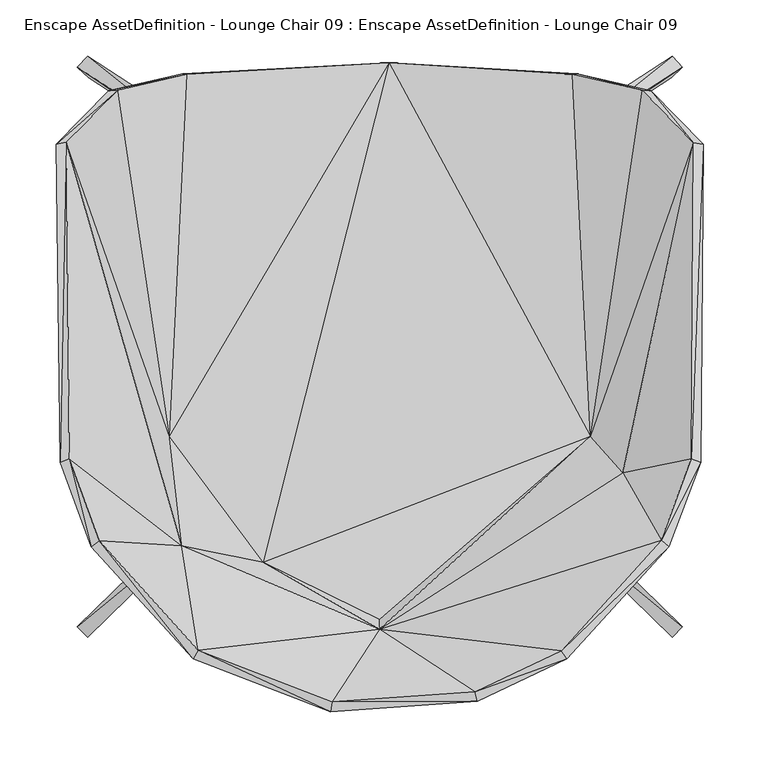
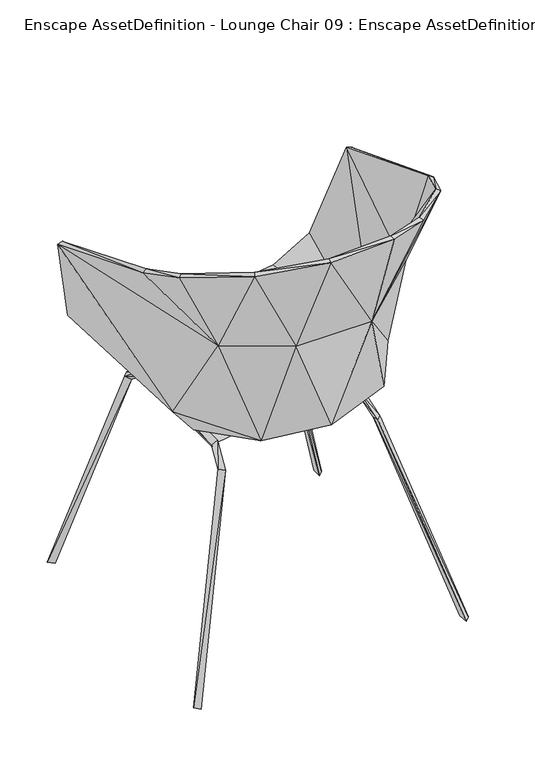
"""IFC4 building model written with IfcOpenShell, lengths in millimetres: geographic element geometry, Enscape AssetDefinition - Lounge Chair 09 : Enscape AssetDefinition - Lounge Chair 09."""

import ifcopenshell
import ifcopenshell.guid

model = None  # the IFC model being written
_history = None  # IfcOwnerHistory: only IFC2X3 demands one
_inside = {}  # id of a spatial element -> (the spatial element, [elements in it])
_under = {}  # id of a project, library or spatial element -> (it, [spatial elements below it])
_declared = {}  # id of a project -> (the project, [libraries it declares])
_typed = {}  # id of a type object -> (the type object, [elements of that type])
_made_of = {}  # id of a material, layer set ... -> (it, [elements and type objects made of it])


def new_model(schema):
    """Start an empty IFC model of exactly this schema.

    Asked for "IFC4X3", IfcOpenShell would pick the latest addendum, in which some entities
    have other attributes; the version numbers below select the first issue.
    IFC2X3 requires an IfcOwnerHistory on every rooted entity: one is made here for all.
    """
    global model, _history
    if schema == "IFC4X3":
        model = ifcopenshell.file(schema_version=(4, 3, 0, 0))
    else:
        model = ifcopenshell.file(schema=schema)
    _inside.clear()
    _under.clear()
    _declared.clear()
    _typed.clear()
    _made_of.clear()
    _history = None
    if model.schema == "IFC2X3":
        org = make("IfcOrganization", Name="unknown")
        user = make(
            "IfcPersonAndOrganization",
            ThePerson=make("IfcPerson", FamilyName="unknown"),
            TheOrganization=org,
        )
        app = make(
            "IfcApplication",
            ApplicationDeveloper=org,
            Version="unknown",
            ApplicationFullName="unknown",
            ApplicationIdentifier="unknown",
        )
        _history = make(
            "IfcOwnerHistory",
            OwningUser=user,
            OwningApplication=app,
            ChangeAction="ADDED",
            CreationDate=0,
        )
    return model


def make(cls, **values):
    """One entity of the class cls with the attributes given. An attribute that is None is left unset."""
    return model.create_entity(
        cls, **{name: value for name, value in values.items() if value is not None}
    )


def rooted(cls, **values):
    """An entity with a GlobalId (a new one), such as an element, a storey or a relation."""
    return make(cls, GlobalId=ifcopenshell.guid.new(), OwnerHistory=_history, **values)


def si_unit(unit_type, name, prefix=None):
    """IfcSIUnit, for example si_unit("LENGTHUNIT", "METRE", prefix="MILLI")."""
    return make("IfcSIUnit", UnitType=unit_type, Prefix=prefix, Name=name)


def assignment(units):
    """IfcUnitAssignment: the units of a project."""
    return None if units is None else make("IfcUnitAssignment", Units=units)


def point(xyz):
    """IfcCartesianPoint."""
    return None if xyz is None else make("IfcCartesianPoint", Coordinates=xyz)


def direction(xyz):
    """IfcDirection."""
    return None if xyz is None else make("IfcDirection", DirectionRatios=xyz)


def frame(location, z_axis=None, x_axis=None):
    """IfcAxis2Placement3D, a coordinate frame: its origin and axes. An axis left out is left unset."""
    return make(
        "IfcAxis2Placement3D",
        Location=point(location),
        Axis=direction(z_axis),
        RefDirection=direction(x_axis),
    )


def origin():
    """The frame at (0, 0, 0) with its axes left unset."""
    return frame((0.0, 0.0, 0.0))


def place(relative_to, where):
    """IfcLocalPlacement: puts the frame where relative to a parent placement (None: the world)."""
    return make(
        "IfcLocalPlacement", PlacementRelTo=relative_to, RelativePlacement=where
    )


def context(
    kind, dimensions, precision=None, world=None, true_north=None, identifier=None
):
    """IfcGeometricRepresentationContext, for example the 3D "Model" context."""
    return make(
        "IfcGeometricRepresentationContext",
        ContextIdentifier=identifier,
        ContextType=kind,
        CoordinateSpaceDimension=dimensions,
        Precision=precision,
        WorldCoordinateSystem=world,
        TrueNorth=true_north,
    )


def project(units=None, contexts=None):
    """IfcProject with its units and contexts."""
    return rooted(
        "IfcProject",
        Name="project",
        RepresentationContexts=contexts,
        UnitsInContext=assignment(units),
    )


def spatial(cls, under=None, at=None, **own):
    """A site, building, storey or space (cls), placed at a placement, below another one or the project."""
    s = rooted(cls, ObjectPlacement=at, **own)
    if under is not None:
        _under.setdefault(under.id(), (under, []))[1].append(s)
    return s


def faces_of(points, faces, orient=None, outer=None):
    """IfcFace entities. A face is a list of loops; a loop is a list of indices into points, from 0.

    orient and outer hold one flag for each loop. By default every Orientation is true, the
    first loop of a face is its IfcFaceOuterBound and the others are IfcFaceBound.
    """
    made = []
    for i, loops in enumerate(faces):
        bounds = []
        for j, loop in enumerate(loops):
            is_outer = j == 0 if outer is None else outer[i][j]
            bounds.append(
                make(
                    "IfcFaceOuterBound" if is_outer else "IfcFaceBound",
                    Bound=make("IfcPolyLoop", Polygon=[points[k] for k in loop]),
                    Orientation=True if orient is None else orient[i][j],
                )
            )
        made.append(make("IfcFace", Bounds=bounds))
    return made


def faceted_brep(points, faces, orient=None, outer=None, voids=None):
    """IfcFacetedBrep: a solid bounded by flat faces; with voids (closed shells), ...WithVoids."""
    shared = [point(p) for p in points]
    hull = make("IfcClosedShell", CfsFaces=faces_of(shared, faces, orient, outer))
    if voids is None:
        return make("IfcFacetedBrep", Outer=hull)
    return make(
        "IfcFacetedBrepWithVoids",
        Outer=hull,
        Voids=[
            make(cls, CfsFaces=faces_of(shared, fs, o, b)) for cls, fs, o, b in voids
        ],
    )


def shape(context_of_items, identifier, shape_type, items):
    """IfcShapeRepresentation: the items that make up one representation, for example the "Body"."""
    return make(
        "IfcShapeRepresentation",
        ContextOfItems=context_of_items,
        RepresentationIdentifier=identifier,
        RepresentationType=shape_type,
        Items=items,
    )


def source(mapping_origin, context_of_items, identifier, shape_type, items):
    """IfcRepresentationMap: a shape defined once, which mapped items show again and again."""
    return make(
        "IfcRepresentationMap",
        MappingOrigin=mapping_origin,
        MappedRepresentation=shape(context_of_items, identifier, shape_type, items),
    )


def transform(
    local_origin,
    x_axis=None,
    y_axis=None,
    z_axis=None,
    scale=None,
    scale2=None,
    scale3=None,
    uniform=True,
):
    """IfcCartesianTransformationOperator3D, or its non-uniform kind. x_axis, y_axis, z_axis: its Axis1, 2, 3."""
    if uniform:
        return make(
            "IfcCartesianTransformationOperator3D",
            Axis1=direction(x_axis),
            Axis2=direction(y_axis),
            LocalOrigin=point(local_origin),
            Scale=scale,
            Axis3=direction(z_axis),
        )
    return make(
        "IfcCartesianTransformationOperator3DnonUniform",
        Axis1=direction(x_axis),
        Axis2=direction(y_axis),
        LocalOrigin=point(local_origin),
        Scale=scale,
        Axis3=direction(z_axis),
        Scale2=scale2,
        Scale3=scale3,
    )


def mapped(mapping_source, mapping_target):
    """IfcMappedItem: shows the shape of a source again, moved by a transform."""
    return make(
        "IfcMappedItem", MappingSource=mapping_source, MappingTarget=mapping_target
    )


def made_of(thing, what):
    """Note that an element or type object is made of a material, layer set ...; save() writes the relation."""
    if what is not None:
        _made_of.setdefault(what.id(), (what, []))[1].append(thing)
    return thing


def element(
    cls,
    number,
    at=None,
    inside=None,
    cuts=None,
    type_object=None,
    material=None,
    context=None,
    identifier="Body",
    shape_type=None,
    held_by="IfcProductDefinitionShape",
    body=None,
    shapes=None,
    **own,
):
    """One element of the class cls, such as IfcWall. Its Tag is "e" and its number.

    at: its placement. inside: the storey or other place that contains it. cuts: it is an
    opening in that element (IfcRelVoidsElement). A single representation is given by context,
    identifier, shape_type and body (its items); several are given by shapes. held_by: the class
    of the entity that holds the representations. save() writes the other relations.
    """
    e = rooted(cls, Tag="e%d" % number, ObjectPlacement=at, **own)
    if body is not None:
        shapes = [shape(context, identifier, shape_type, body)]
    if shapes is not None:
        e.Representation = make(held_by, Representations=shapes)
    if inside is not None:
        _inside.setdefault(inside.id(), (inside, []))[1].append(e)
    if cuts is not None:
        rooted(
            "IfcRelVoidsElement", RelatingBuildingElement=cuts, RelatedOpeningElement=e
        )
    if type_object is not None:
        _typed.setdefault(type_object.id(), (type_object, []))[1].append(e)
    return made_of(e, material)


def aggregate(whole, parts):
    """IfcRelAggregates: a whole, such as a stair, and the parts it consists of."""
    return rooted("IfcRelAggregates", RelatingObject=whole, RelatedObjects=parts)


def save(model, path):
    """Write the relations noted so far, then the file.

    IfcRelAggregates (storeys below a building ...), IfcRelContainedInSpatialStructure (elements
    in a storey), IfcRelDefinesByType, IfcRelAssociatesMaterial and IfcRelDeclares: one each for
    every whole, place, type object, material and project.
    """
    for whole, parts in _under.values():
        aggregate(whole, parts)
    for where, things in _inside.values():
        rooted(
            "IfcRelContainedInSpatialStructure",
            RelatedElements=things,
            RelatingStructure=where,
        )
    for kind, things in _typed.values():
        rooted("IfcRelDefinesByType", RelatedObjects=things, RelatingType=kind)
    for what, things in _made_of.values():
        rooted("IfcRelAssociatesMaterial", RelatedObjects=things, RelatingMaterial=what)
    for by, libraries in _declared.values():
        rooted("IfcRelDeclares", RelatingContext=by, RelatedDefinitions=libraries)
    model.write(path)


def enscape_assetdefinition_lounge_chair_09_enscape_dc3376f6(model_context):
    return source(origin(), model_context, "Body", "Brep", [
        faceted_brep([(258.9002252, -259.8875165, -0.2324126), (149.9228776, -153.7009627, 384.1864467), (158.522144, -162.0799154, 389.5681798), (268.9516246, -269.6813643, -0.2324126), (149.1782218, -171.3271439, 390.1715279), (151.2373984, -127.3416579, 415.2702093), (140.0908828, -127.9905587, 422.2351611), (259.778738, -279.0959477, -0.2324126), (144.2724615, -126.7550588, 404.1237235), (151.2373984, 124.1418049, 415.2702093), (140.0908828, 124.8334721, 422.2360849), (144.2724615, 123.5142946, 404.1237235), (158.4217399, 155.5667818, 389.9205029), (149.2814124, 165.0371253, 389.8043036), (149.6374756, 146.9870359, 385.1895034), (268.9432502, 227.3692638, -0.2324126), (259.7843111, 236.8275225, -0.2324126), (258.8936985, 217.9667801, -0.2324126)], [[[0, 1, 2]], [[2, 3, 0]], [[3, 2, 4]], [[5, 2, 1]], [[6, 4, 2]], [[2, 5, 6]], [[1, 0, 7]], [[7, 0, 3]], [[4, 7, 3]], [[7, 4, 1]], [[8, 1, 4]], [[4, 6, 8]], [[1, 8, 5]], [[9, 5, 8]], [[10, 6, 5]], [[5, 9, 10]], [[11, 8, 6]], [[6, 10, 11]], [[8, 11, 9]], [[12, 9, 11]], [[13, 10, 9]], [[9, 12, 13]], [[14, 11, 10]], [[10, 13, 14]], [[11, 14, 12]], [[15, 12, 14]], [[16, 13, 12]], [[12, 15, 16]], [[17, 14, 13]], [[13, 16, 17]], [[14, 17, 15]], [[17, 16, 15]]]),
        faceted_brep([(-258.8983476, -259.8875165, -0.2324126), (-268.9497471, -269.6813643, -0.2324126), (-158.5193574, -162.0799154, 389.5681798), (-149.9210149, -153.7009627, 384.1864467), (-149.1763592, -171.3271439, 390.1715279), (-151.2355357, -127.3416579, 415.2702093), (-140.089035, -127.9905587, 422.2351611), (-259.7768903, -279.0959477, -0.2324126), (-144.2705989, -126.7550588, 404.1237235), (-140.089035, 124.8334721, 422.2360849), (-144.2705989, 123.5142946, 404.1237235), (-151.2355357, 124.1418049, 415.2702093), (-158.4189534, 155.5667818, 389.9205029), (-149.635613, 146.9870359, 385.1895034), (-149.2795497, 165.0371253, 389.8043036), (-268.9413726, 227.3692638, -0.2324126), (-259.7824633, 236.8275225, -0.2324126), (-258.8918507, 217.9667801, -0.2324126)], [[[0, 1, 2]], [[2, 3, 0]], [[4, 2, 1]], [[3, 2, 5]], [[6, 5, 2]], [[2, 4, 6]], [[1, 7, 4]], [[0, 7, 1]], [[7, 0, 3]], [[3, 4, 7]], [[5, 8, 3]], [[4, 3, 8]], [[8, 6, 4]], [[5, 6, 9]], [[10, 9, 6]], [[6, 8, 10]], [[8, 5, 11]], [[9, 11, 5]], [[11, 10, 8]], [[10, 11, 12]], [[12, 13, 10]], [[9, 10, 13]], [[11, 9, 14]], [[13, 14, 9]], [[14, 12, 11]], [[13, 12, 15]], [[16, 15, 12]], [[12, 14, 16]], [[15, 17, 13]], [[14, 13, 17]], [[17, 16, 14]], [[16, 17, 15]]]),
        faceted_brep([(-175.0662029, 221.477136, 457.4809968), (8.9692678, 231.0636938, 424.8103201), (-175.9558618, -108.1787795, 444.9037611), (-210.8698189, -97.8234038, 487.8387153), (-240.9765571, 206.4019293, 513.8810277), (-107.3913649, -217.8859115, 464.332521), (-171.5800166, 221.1396694, 466.0923481), (8.339894, 231.0014069, 434.0854287), (-287.5938714, 158.7387472, 705.7441473), (-233.1712097, 206.5999508, 518.9262629), (-183.1597388, -203.5255879, 679.3448925), (-284.085393, -123.6081868, 816.6784048), (-278.7352502, 160.294041, 708.0971003), (-187.2111559, -100.4626825, 472.0402658), (-103.8410291, -212.3089284, 470.8679914), (-176.1064827, -197.9764998, 681.7740798), (-276.2465775, -120.7262725, 820.7623959), (-256.688565, -198.7564862, 842.7597284), (-249.6604323, -193.4658438, 845.7671404), (-161.5983546, -290.7946706, 876.6975999), (-0.2695986, -271.9608843, 688.3280873), (-166.1592275, -298.4642684, 874.0890026), (-74.3144006, -280.4727554, 686.1666441), (-43.7028706, -345.1550603, 888.1955147), (-42.6263325, -336.2740874, 890.7260299), (74.3162557, -280.4727554, 686.1666441), (86.5811408, -336.119771, 885.4873776), (0.0009297, -271.1539268, 492.7231371), (152.5417119, -184.7922057, 466.2169218), (175.9568155, -108.1787795, 444.9037611), (210.8707577, -97.8234038, 487.8387153), (240.9784198, 206.4019293, 513.8810277), (175.0680655, 221.477136, 457.4809968), (170.9273905, 221.1489826, 465.7985568), (233.1730723, 206.5999508, 518.9262629), (287.5957489, 158.7387472, 705.7441473), (278.6785364, 159.9575132, 708.0739141), (223.6014009, -137.6877427, 673.7567186), (285.0987017, -123.6081868, 816.6682124), (276.9001126, -120.6556112, 819.9061751), (215.8666998, -133.2105398, 676.3188839), (187.2167289, -100.7415727, 472.0932543), (-0.3281666, -263.2807493, 497.6549149), (250.0778437, -193.1339651, 846.090734), (161.3129377, -291.1497951, 877.1587014), (256.6895187, -198.7564862, 842.7597284), (84.5879689, -327.4070919, 888.043046), (166.1610901, -298.4642684, 874.0890026)], [[[0, 1, 2]], [[2, 3, 4]], [[4, 0, 2]], [[1, 5, 2]], [[2, 5, 3]], [[0, 6, 7]], [[7, 1, 0]], [[6, 0, 4]], [[8, 4, 3]], [[9, 4, 8]], [[4, 9, 6]], [[10, 3, 5]], [[3, 10, 8]], [[8, 10, 11]], [[12, 8, 11]], [[8, 12, 9]], [[13, 9, 12]], [[13, 6, 9]], [[13, 7, 6]], [[13, 14, 7]], [[14, 13, 15]], [[12, 15, 13]], [[16, 15, 12]], [[11, 16, 12]], [[17, 11, 10]], [[16, 11, 17]], [[15, 16, 18]], [[17, 18, 16]], [[15, 19, 20]], [[15, 18, 19]], [[15, 20, 14]], [[21, 19, 18]], [[18, 17, 21]], [[21, 17, 10]], [[22, 21, 10]], [[21, 22, 23]], [[19, 21, 23]], [[24, 20, 19]], [[23, 24, 19]], [[25, 26, 23]], [[25, 23, 22]], [[24, 23, 26]], [[27, 25, 22]], [[5, 22, 10]], [[22, 5, 27]], [[5, 28, 27]], [[27, 28, 25]], [[5, 1, 29]], [[28, 5, 29]], [[29, 30, 28]], [[25, 28, 30]], [[31, 30, 29]], [[29, 32, 31]], [[29, 1, 32]], [[1, 7, 33]], [[33, 32, 1]], [[32, 33, 34]], [[34, 31, 32]], [[30, 31, 35]], [[31, 34, 36]], [[36, 35, 31]], [[30, 37, 25]], [[35, 37, 30]], [[37, 35, 38]], [[35, 36, 39]], [[39, 38, 35]], [[39, 36, 40]], [[36, 34, 41]], [[41, 40, 36]], [[34, 33, 41]], [[41, 7, 14]], [[41, 14, 42]], [[41, 42, 20]], [[33, 7, 41]], [[20, 40, 41]], [[40, 20, 43]], [[40, 43, 39]], [[38, 39, 43]], [[44, 43, 20]], [[45, 43, 44]], [[43, 45, 38]], [[24, 46, 20]], [[42, 14, 20]], [[44, 20, 46]], [[44, 47, 45]], [[47, 44, 46]], [[45, 25, 37]], [[25, 45, 47]], [[38, 45, 37]], [[26, 25, 47]], [[46, 26, 47]], [[26, 46, 24]]]),
        faceted_brep([(139.6083981, 106.6522896, 411.4437699), (0.0009297, 106.6522896, 429.9391508), (0.0009297, 125.2453029, 437.9025698), (140.5743062, 125.2453029, 419.3160534), (0.0009297, 88.0592763, 437.9025698), (140.5743062, 88.0592763, 419.3160534), (-140.5724585, 125.2453029, 419.3160534), (-139.6065503, 106.6522896, 411.4437699), (-140.5724585, 88.0592763, 419.3160534)], [[[0, 1, 2]], [[2, 3, 0]], [[2, 4, 5]], [[5, 3, 2]], [[6, 2, 1]], [[4, 2, 6]], [[0, 5, 4]], [[4, 1, 0]], [[0, 3, 5]], [[1, 7, 6]], [[1, 4, 8]], [[8, 7, 1]], [[6, 8, 4]], [[7, 8, 6]]]),
        faceted_brep([(139.6083981, -109.6885279, 411.4437699), (0.0009297, -109.6885279, 432.1080744), (0.0009297, -91.0955146, 440.0714338), (140.5743062, -91.0955146, 419.3160534), (0.0009297, -128.2815337, 440.0714338), (140.5743062, -128.2815337, 419.3160534), (-140.5724585, -91.0955146, 419.3160534), (-139.6065503, -109.6885279, 411.4437699), (-140.5724585, -128.2815337, 419.3160534)], [[[0, 1, 2]], [[2, 3, 0]], [[2, 4, 5]], [[5, 3, 2]], [[6, 2, 1]], [[4, 2, 6]], [[0, 5, 4]], [[4, 1, 0]], [[0, 3, 5]], [[1, 7, 6]], [[1, 4, 8]], [[8, 7, 1]], [[6, 8, 4]], [[7, 8, 6]]]),
    ])


if __name__ == "__main__":
    model = new_model("IFC4")
    model_context = context("Model", 3, world=origin())
    ifc_project = project(units=[si_unit("LENGTHUNIT", "METRE", prefix="MILLI")], contexts=[model_context])
    site = spatial("IfcSite", under=ifc_project)
    building = spatial("IfcBuilding", under=site)
    placement = place(None, origin())
    enscape_assetdefinition_lounge_chair_09_enscape_shape = enscape_assetdefinition_lounge_chair_09_enscape_dc3376f6(model_context)
    element("IfcGeographicElement", 1, ObjectType="Enscape AssetDefinition - Lounge Chair 09 : Enscape AssetDefinition - Lounge Chair 09", at=placement, inside=building, context=model_context, shape_type="MappedRepresentation", body=[
        mapped(enscape_assetdefinition_lounge_chair_09_enscape_shape, transform((0.0, 0.0, 0.0), x_axis=(1.0, 0.0, 0.0), y_axis=(0.0, 1.0, 0.0), z_axis=(0.0, 0.0, 1.0))),
    ])
    save(model, "model.ifc")
